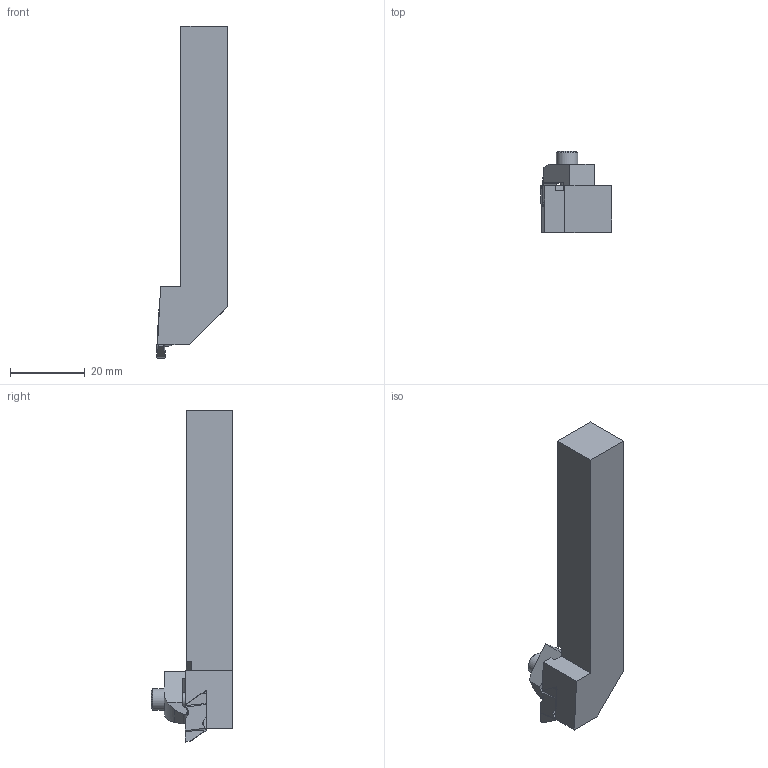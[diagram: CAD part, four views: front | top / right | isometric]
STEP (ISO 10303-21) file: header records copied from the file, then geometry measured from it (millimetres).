
FILE_DESCRIPTION(/* description */ (''),/* implementation_level */ '2;1');
FILE_NAME(/* name */ 'NSR082V_GTM.stp',/* time_stamp */ '2021-04-14T15:21:46+06:00',/* author */ (''),/* organization */ (''),/* preprocessor_version */ 'ST-DEVELOPER v16.7',/* originating_system */ 'SIEMENS PLM Software NX 12.0',/* authorisation */ '');
FILE_SCHEMA (('AUTOMOTIVE_DESIGN { 1 0 10303 214 3 1 1 1 }'));
Length unit declared in the file: millimetre
Products named in the file (1): NSR082V_GTM
Bounding box: 19.05 x 21.81 x 88.9 mm (x, y, z)
Volume: 14435.8 mm3; surface area: 5742.1 mm2
Topology: 4 solids, 4 shells, 85 faces, 234 edges, 166 vertices
Faces by surface type: plane 64, cylinder 15, bspline 4, cone 2
Full cylindrical faces by diameter (mm): 3.505 x1, 5.74 x1
Entity records: 2879 total; most frequent: CARTESIAN_POINT 616, ORIENTED_EDGE 444, DIRECTION 437, EDGE_CURVE 222, LINE 175, VECTOR 175, VERTEX_POINT 150, AXIS2_PLACEMENT_3D 131
